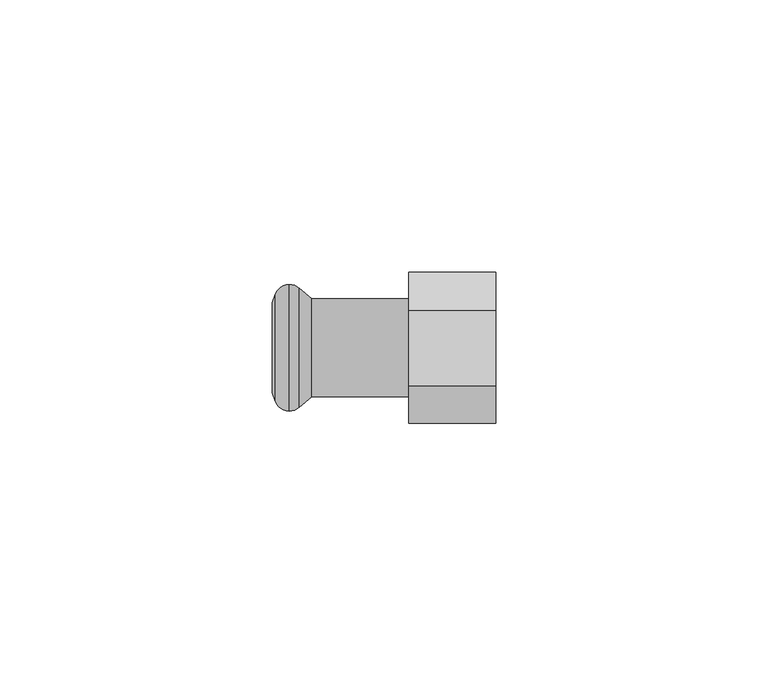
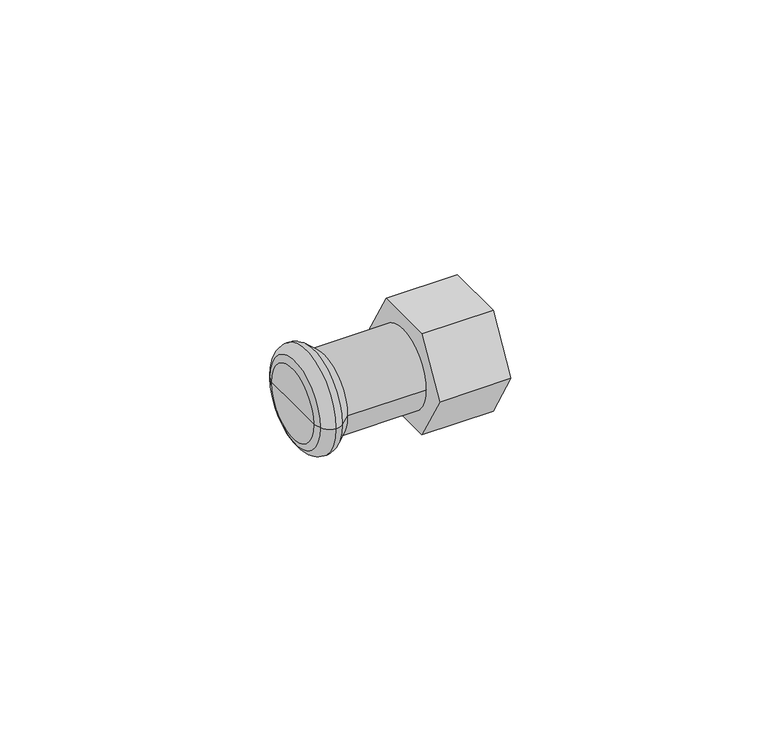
"""IFC4 building model written with IfcOpenShell, lengths in millimetres: pipe fitting geometry, KAN-therm Steel złączka z GW : KAN-therm Steel złączka z GW."""

from ifc_helpers import new_model, si_unit, point, frame, origin, place, context, project, spatial, polyline, circle_curve, ellipse_curve, trimmed, outline, extrude, source, transform, mapped, element, save
from ifc_brep_helpers import plane_surface, cylinder_surface, revolved_surface, advanced_brep


def pipe_fitting_339e2c9f(model_context):
    return source(origin(), model_context, "Body", "SolidModel", [
        extrude(outline(polyline([(-13.8564065, 0.0), (-6.9282032, 12.0), (6.9282032, 12.0), (13.8564065, 0.0), (6.9282032, -12.0), (-6.9282032, -12.0), (-13.8564065, 0.0)])), frame((0.0, 0.0, 0.0), z_axis=(1.0, 0.0, 0.0), x_axis=(0.0, 1.0, 0.0)), (0.0, 0.0, 1.0), 16.0),
        advanced_brep(
        [(-17.7838092, -9.0, 0.0), (-17.7838092, 9.0, 0.0), (0.0, 9.0, 0.0), (0.0, -9.0, 0.0), (-20.0922627, -10.9370225, 0.0), (-20.0922627, 10.9370225, 0.0), (-21.8921278, -11.625, 0.0), (-21.8921278, 11.625, 0.0), (-24.432052, -9.8484544, 0.0), (-24.432052, 9.8484544, 0.0), (-25.0, -8.2880302, 0.0), (-25.0, 8.2880302, 0.0), (-25.0, 0.0, 0.0), (0.0, 0.0, 0.0)],
        [
            (0, 1, circle_curve(frame((-17.7838092, 0.0, 0.0), z_axis=(1.0, 0.0, 0.0), x_axis=(0.0, 1.0, 0.0)), 9.0)),
            (1, 2),
            (2, 3, circle_curve(frame((0.0, 0.0, 0.0), z_axis=(-1.0, 0.0, 0.0), x_axis=(0.0, 1.0, 0.0)), 9.0)),
            (3, 0),
            (1, 0, circle_curve(frame((-17.7838092, 0.0, 0.0), z_axis=(1.0, 0.0, 0.0), x_axis=(0.0, 1.0, 0.0)), 9.0)),
            (3, 2, circle_curve(frame((0.0, 0.0, 0.0), z_axis=(-1.0, 0.0, 0.0), x_axis=(0.0, 1.0, 0.0)), 9.0)),
            (4, 5, circle_curve(frame((-20.0922627, 0.0, 0.0), z_axis=(1.0, 0.0, 0.0), x_axis=(0.0, 1.0, 0.0)), 10.9370225)),
            (5, 1),
            (0, 4),
            (5, 4, circle_curve(frame((-20.0922627, 0.0, 0.0), z_axis=(1.0, 0.0, 0.0), x_axis=(0.0, 1.0, 0.0)), 10.9370225)),
            (6, 7, circle_curve(frame((-21.8921278, 0.0, 0.0), z_axis=(1.0, 0.0, 0.0), x_axis=(0.0, 1.0, 0.0)), 11.625)),
            (7, 5, circle_curve(frame((-21.8935049, 8.9230333, 0.0), z_axis=(0.0, 0.0, -1.0), x_axis=(1.0, 0.0, 0.0)), 2.701967)),
            (4, 6, circle_curve(frame((-21.8935049, -8.9230333, 0.0), z_axis=(0.0, 0.0, -1.0), x_axis=(1.0, 0.0, 0.0)), 2.701967)),
            (7, 6, circle_curve(frame((-21.8921278, 0.0, 0.0), z_axis=(1.0, 0.0, 0.0), x_axis=(0.0, 1.0, 0.0)), 11.625)),
            (8, 9, circle_curve(frame((-24.432052, 0.0, 0.0), z_axis=(1.0, 0.0, 0.0), x_axis=(0.0, 1.0, 0.0)), 9.8484544)),
            (9, 7, circle_curve(frame((-21.89488, 8.9249993, 0.0), z_axis=(0.0, 0.0, -1.0), x_axis=(1.0, 0.0, 0.0)), 2.7000021)),
            (6, 8, circle_curve(frame((-21.89488, -8.9249993, 0.0), z_axis=(0.0, 0.0, -1.0), x_axis=(1.0, 0.0, 0.0)), 2.7000021)),
            (9, 8, circle_curve(frame((-24.432052, 0.0, 0.0), z_axis=(1.0, 0.0, 0.0), x_axis=(0.0, 1.0, 0.0)), 9.8484544)),
            (10, 11, circle_curve(frame((-25.0, 0.0, 0.0), z_axis=(1.0, 0.0, 0.0), x_axis=(0.0, 1.0, 0.0)), 8.2880302)),
            (11, 9),
            (8, 10),
            (11, 10, circle_curve(frame((-25.0, 0.0, 0.0), z_axis=(1.0, 0.0, 0.0), x_axis=(0.0, 1.0, 0.0)), 8.2880302)),
            (12, 11),
            (10, 12),
            (2, 13),
            (13, 3),
        ],
        [
            cylinder_surface(frame((1344.742668, 0.0, 0.0), z_axis=(-1.0, 0.0, 0.0), x_axis=(0.0, 1.0, 0.0)), 9.0),
            revolved_surface(polyline([(-17.7838092, 9.0, 0.0), (-20.0922627, 10.9370225, 0.0)]), (1344.742668, 0.0, 0.0), (-1.0, 0.0, 0.0)),
            revolved_surface(trimmed(ellipse_curve(frame((-21.8935049, 8.9230333, 0.0), z_axis=(0.0, 0.0, 1.0), x_axis=(1.0, 0.0, 0.0)), 2.701967, 2.701967), [point((-20.0922627, 10.9370225, 0.0))], [point((-21.8921278, 11.625, 0.0))], True, "CARTESIAN"), (1344.742668, 0.0, 0.0), (-1.0, 0.0, 0.0)),
            revolved_surface(trimmed(ellipse_curve(frame((-21.89488, 8.9249993, 0.0), z_axis=(0.0, 0.0, 1.0), x_axis=(1.0, 0.0, 0.0)), 2.7000021, 2.7000021), [point((-21.8921278, 11.625, 0.0))], [point((-24.432052, 9.8484544, 0.0))], True, "CARTESIAN"), (1344.742668, 0.0, 0.0), (-1.0, 0.0, 0.0)),
            revolved_surface(polyline([(-24.432052, 9.8484544, 0.0), (-25.0, 8.2880302, 0.0)]), (1344.742668, 0.0, 0.0), (-1.0, 0.0, 0.0)),
            plane_surface(frame((-25.0, 0.0, 0.0), z_axis=(-1.0, 0.0, 0.0), x_axis=(0.0, 1.0, 0.0))),
            plane_surface(frame((0.0, 0.0, 0.0), z_axis=(1.0, 0.0, 0.0), x_axis=(0.0, 1.0, 0.0))),
        ],
        [
            (0, [[1, 2, 3, 4]]),
            (0, [[5, -4, 6, -2]]),
            (1, [[7, 8, -1, 9]]),
            (1, [[10, -9, -5, -8]]),
            (2, [[11, 12, -7, 13]]),
            (2, [[14, -13, -10, -12]]),
            (3, [[15, 16, -11, 17]]),
            (3, [[18, -17, -14, -16]]),
            (4, [[19, 20, -15, 21]]),
            (4, [[22, -21, -18, -20]]),
            (5, [[23, -19, 24]]),
            (5, [[-24, -22, -23]]),
            (6, [[-3, 25, 26]]),
            (6, [[-6, -26, -25]]),
        ],
    ),
    ])


if __name__ == "__main__":
    model = new_model("IFC4")
    model_context = context("Model", 3, world=origin())
    ifc_project = project(units=[si_unit("LENGTHUNIT", "METRE", prefix="MILLI")], contexts=[model_context])
    site = spatial("IfcSite", under=ifc_project)
    building = spatial("IfcBuilding", under=site)
    placement = place(None, origin())
    pipe_fitting_shape = pipe_fitting_339e2c9f(model_context)
    element("IfcPipeFitting", 1, ObjectType="KAN-therm Steel złączka z GW : KAN-therm Steel złączka z GW", at=placement, inside=building, context=model_context, shape_type="MappedRepresentation", body=[
        mapped(pipe_fitting_shape, transform((0.0, 0.0, 0.0), x_axis=(1.0, 0.0, 0.0), y_axis=(0.0, 1.0, 0.0), z_axis=(0.0, 0.0, 1.0))),
    ])
    save(model, "model.ifc")
